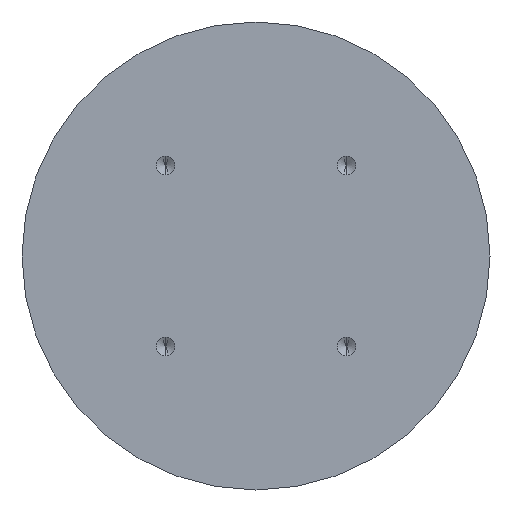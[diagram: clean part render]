
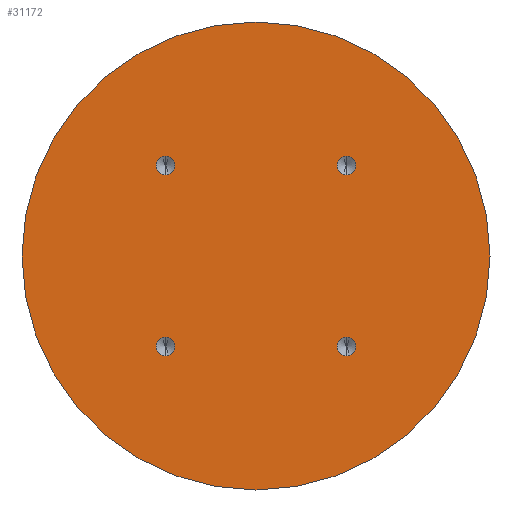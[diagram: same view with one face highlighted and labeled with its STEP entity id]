
A CAD part, front view. The second image highlights one B-rep face of the part: STEP entity #31172.
In plain terms, the highlighted planar face has unit normal (0, -1, 0).
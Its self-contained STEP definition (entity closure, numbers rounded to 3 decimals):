
#12 = CIRCLE ( 'NONE', #31275, 2.5 ) ;
#197 = AXIS2_PLACEMENT_3D ( 'NONE', #29783, #7068, #9371 ) ;
#285 = EDGE_CURVE ( 'NONE', #30326, #14412, #21328, .T. ) ;
#531 = CIRCLE ( 'NONE', #9018, 2.5 ) ;
#807 = CARTESIAN_POINT ( 'NONE',  ( 24.749, -13.017, -24.749 ) ) ;
#946 = EDGE_LOOP ( 'NONE', ( #1637, #18305 ) ) ;
#1233 = VERTEX_POINT ( 'NONE', #31292 ) ;
#1430 = EDGE_CURVE ( 'NONE', #6307, #26172, #22907, .T. ) ;
#1591 = EDGE_CURVE ( 'NONE', #19345, #10087, #23682, .T. ) ;
#1637 = ORIENTED_EDGE ( 'NONE', *, *, #2921, .F. ) ;
#2507 = CARTESIAN_POINT ( 'NONE',  ( 24.749, -13.017, -27.249 ) ) ;
#2552 = DIRECTION ( 'NONE',  ( 0., 0., -1. ) ) ;
#2587 = VERTEX_POINT ( 'NONE', #8325 ) ;
#2921 = EDGE_CURVE ( 'NONE', #28842, #2587, #29530, .T. ) ;
#3009 = AXIS2_PLACEMENT_3D ( 'NONE', #807, #13087, #30678 ) ;
#3087 = CARTESIAN_POINT ( 'NONE',  ( 24.749, -13.017, 24.749 ) ) ;
#3335 = ORIENTED_EDGE ( 'NONE', *, *, #31376, .F. ) ;
#3386 = CARTESIAN_POINT ( 'NONE',  ( 24.749, -13.017, -24.749 ) ) ;
#3423 = CARTESIAN_POINT ( 'NONE',  ( 0., -13.017, 0. ) ) ;
#3486 = EDGE_LOOP ( 'NONE', ( #22451, #8490 ) ) ;
#4799 = ORIENTED_EDGE ( 'NONE', *, *, #28474, .F. ) ;
#5139 = EDGE_CURVE ( 'NONE', #26172, #6307, #11042, .T. ) ;
#5436 = DIRECTION ( 'NONE',  ( 0., 1., 0. ) ) ;
#5595 = DIRECTION ( 'NONE',  ( 1., 0., 0. ) ) ;
#5749 = AXIS2_PLACEMENT_3D ( 'NONE', #14625, #24899, #7330 ) ;
#6307 = VERTEX_POINT ( 'NONE', #31695 ) ;
#6508 = AXIS2_PLACEMENT_3D ( 'NONE', #12008, #14017, #24143 ) ;
#6911 = AXIS2_PLACEMENT_3D ( 'NONE', #3423, #5436, #5595 ) ;
#7068 = DIRECTION ( 'NONE',  ( 0., -1., 0. ) ) ;
#7330 = DIRECTION ( 'NONE',  ( 1., 0., 0. ) ) ;
#8095 = FACE_BOUND ( 'NONE', #3486, .T. ) ;
#8257 = FACE_BOUND ( 'NONE', #946, .T. ) ;
#8272 = CARTESIAN_POINT ( 'NONE',  ( 24.749, -13.017, 27.249 ) ) ;
#8325 = CARTESIAN_POINT ( 'NONE',  ( 24.749, -13.017, -22.249 ) ) ;
#8490 = ORIENTED_EDGE ( 'NONE', *, *, #30497, .F. ) ;
#8587 = AXIS2_PLACEMENT_3D ( 'NONE', #3386, #11011, #13508 ) ;
#9018 = AXIS2_PLACEMENT_3D ( 'NONE', #17018, #12523, #2552 ) ;
#9371 = DIRECTION ( 'NONE',  ( 0., 0., -1. ) ) ;
#9670 = EDGE_CURVE ( 'NONE', #14412, #30326, #12, .T. ) ;
#10008 = ORIENTED_EDGE ( 'NONE', *, *, #285, .F. ) ;
#10087 = VERTEX_POINT ( 'NONE', #8272 ) ;
#10699 = CARTESIAN_POINT ( 'NONE',  ( 24.749, -13.017, 22.249 ) ) ;
#11011 = DIRECTION ( 'NONE',  ( 0., -1., 0. ) ) ;
#11042 = CIRCLE ( 'NONE', #5749, 64. ) ;
#11049 = FACE_BOUND ( 'NONE', #20971, .T. ) ;
#11054 = DIRECTION ( 'NONE',  ( 0., 0., -1. ) ) ;
#11476 = AXIS2_PLACEMENT_3D ( 'NONE', #15829, #20966, #25931 ) ;
#12008 = CARTESIAN_POINT ( 'NONE',  ( -24.749, -13.017, -24.749 ) ) ;
#12352 = CARTESIAN_POINT ( 'NONE',  ( 0., -13.017, 0. ) ) ;
#12523 = DIRECTION ( 'NONE',  ( 0., -1., 0. ) ) ;
#12531 = CARTESIAN_POINT ( 'NONE',  ( -24.749, -13.017, -27.249 ) ) ;
#13087 = DIRECTION ( 'NONE',  ( 0., -1., 0. ) ) ;
#13226 = CIRCLE ( 'NONE', #32827, 2.5 ) ;
#13508 = DIRECTION ( 'NONE',  ( 0., 0., -1. ) ) ;
#14017 = DIRECTION ( 'NONE',  ( 0., -1., 0. ) ) ;
#14412 = VERTEX_POINT ( 'NONE', #12531 ) ;
#14625 = CARTESIAN_POINT ( 'NONE',  ( 0., -13.017, 0. ) ) ;
#14935 = ORIENTED_EDGE ( 'NONE', *, *, #5139, .T. ) ;
#15829 = CARTESIAN_POINT ( 'NONE',  ( 24.749, -13.017, 24.749 ) ) ;
#16548 = AXIS2_PLACEMENT_3D ( 'NONE', #12352, #19823, #22643 ) ;
#17018 = CARTESIAN_POINT ( 'NONE',  ( -24.749, -13.017, 24.749 ) ) ;
#17210 = EDGE_LOOP ( 'NONE', ( #18394, #14935 ) ) ;
#17755 = VERTEX_POINT ( 'NONE', #25861 ) ;
#18214 = FACE_OUTER_BOUND ( 'NONE', #17210, .T. ) ;
#18305 = ORIENTED_EDGE ( 'NONE', *, *, #22462, .F. ) ;
#18394 = ORIENTED_EDGE ( 'NONE', *, *, #1430, .T. ) ;
#19169 = CIRCLE ( 'NONE', #8587, 2.5 ) ;
#19345 = VERTEX_POINT ( 'NONE', #10699 ) ;
#19433 = DIRECTION ( 'NONE',  ( 0., -1., 0. ) ) ;
#19823 = DIRECTION ( 'NONE',  ( 0., -1., 0. ) ) ;
#20860 = CIRCLE ( 'NONE', #197, 2.5 ) ;
#20966 = DIRECTION ( 'NONE',  ( 0., -1., 0. ) ) ;
#20971 = EDGE_LOOP ( 'NONE', ( #4799, #3335 ) ) ;
#21328 = CIRCLE ( 'NONE', #6508, 2.5 ) ;
#22244 = CARTESIAN_POINT ( 'NONE',  ( -24.749, -13.017, -24.749 ) ) ;
#22451 = ORIENTED_EDGE ( 'NONE', *, *, #1591, .F. ) ;
#22462 = EDGE_CURVE ( 'NONE', #2587, #28842, #19169, .T. ) ;
#22643 = DIRECTION ( 'NONE',  ( 1., 0., 0. ) ) ;
#22907 = CIRCLE ( 'NONE', #16548, 64. ) ;
#23682 = CIRCLE ( 'NONE', #11476, 2.5 ) ;
#24143 = DIRECTION ( 'NONE',  ( 0., 0., -1. ) ) ;
#24899 = DIRECTION ( 'NONE',  ( 0., -1., 0. ) ) ;
#25169 = CARTESIAN_POINT ( 'NONE',  ( -24.749, -13.017, -22.249 ) ) ;
#25688 = CARTESIAN_POINT ( 'NONE',  ( -64., -13.017, 0. ) ) ;
#25861 = CARTESIAN_POINT ( 'NONE',  ( -24.749, -13.017, 22.249 ) ) ;
#25931 = DIRECTION ( 'NONE',  ( 0., 0., -1. ) ) ;
#26172 = VERTEX_POINT ( 'NONE', #25688 ) ;
#28325 = PLANE ( 'NONE',  #6911 ) ;
#28474 = EDGE_CURVE ( 'NONE', #17755, #1233, #20860, .T. ) ;
#28842 = VERTEX_POINT ( 'NONE', #2507 ) ;
#29530 = CIRCLE ( 'NONE', #3009, 2.5 ) ;
#29555 = DIRECTION ( 'NONE',  ( 0., 0., -1. ) ) ;
#29783 = CARTESIAN_POINT ( 'NONE',  ( -24.749, -13.017, 24.749 ) ) ;
#30326 = VERTEX_POINT ( 'NONE', #25169 ) ;
#30497 = EDGE_CURVE ( 'NONE', #10087, #19345, #13226, .T. ) ;
#30678 = DIRECTION ( 'NONE',  ( 0., 0., -1. ) ) ;
#30981 = FACE_BOUND ( 'NONE', #32479, .T. ) ;
#31172 = ADVANCED_FACE ( 'NONE', ( #11049, #30981, #8257, #8095, #18214 ), #28325, .F. ) ;
#31275 = AXIS2_PLACEMENT_3D ( 'NONE', #22244, #19433, #29555 ) ;
#31292 = CARTESIAN_POINT ( 'NONE',  ( -24.749, -13.017, 27.249 ) ) ;
#31306 = DIRECTION ( 'NONE',  ( 0., -1., 0. ) ) ;
#31376 = EDGE_CURVE ( 'NONE', #1233, #17755, #531, .T. ) ;
#31695 = CARTESIAN_POINT ( 'NONE',  ( 64., -13.017, 0. ) ) ;
#32479 = EDGE_LOOP ( 'NONE', ( #32744, #10008 ) ) ;
#32744 = ORIENTED_EDGE ( 'NONE', *, *, #9670, .F. ) ;
#32827 = AXIS2_PLACEMENT_3D ( 'NONE', #3087, #31306, #11054 ) ;
